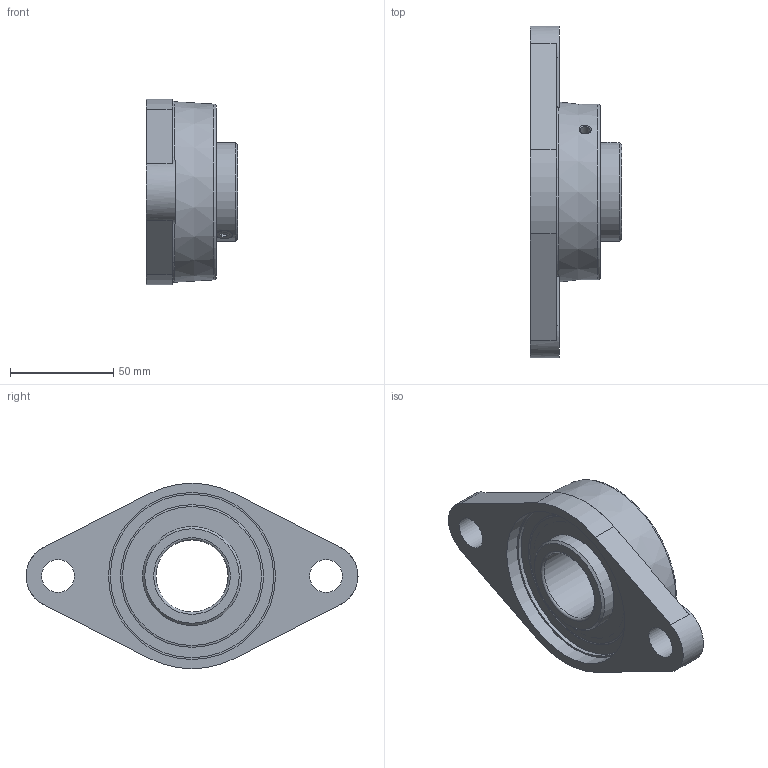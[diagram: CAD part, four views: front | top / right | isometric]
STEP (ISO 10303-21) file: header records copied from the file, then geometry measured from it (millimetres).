
FILE_DESCRIPTION (( 'STEP AP203' ), '1' );
FILE_NAME ('UCFL-207.STEP', '2019-03-08T12:13:00', ( '' ), ( '' ), 'SwSTEP 2.0', 'SolidWorks 2017', '' );
FILE_SCHEMA (( 'CONFIG_CONTROL_DESIGN' ));
Length unit declared in the file: millimetre
Products named in the file (1): UCFL-207
Bounding box: 44.4 x 161 x 90 mm (x, y, z)
Volume: 157577.3 mm3; surface area: 49121.3 mm2
Topology: 1 solids, 3 shells, 99 faces, 218 edges, 143 vertices
Faces by surface type: plane 43, cylinder 28, cone 12, torus 9, sphere 7
Full cylindrical faces by diameter (mm): 1 x4, 4.918 x1, 6 x1, 8 x2, 16 x2, 35 x1, 48 x4, 62.142 x2, 79.2 x1, 80 x1, 81 x1
Entity records: 3009 total; most frequent: CARTESIAN_POINT 978, DIRECTION 408, ORIENTED_EDGE 328, AXIS2_PLACEMENT_3D 172, EDGE_CURVE 164, EDGE_LOOP 162, FACE_OUTER_BOUND 126, VERTEX_POINT 124
